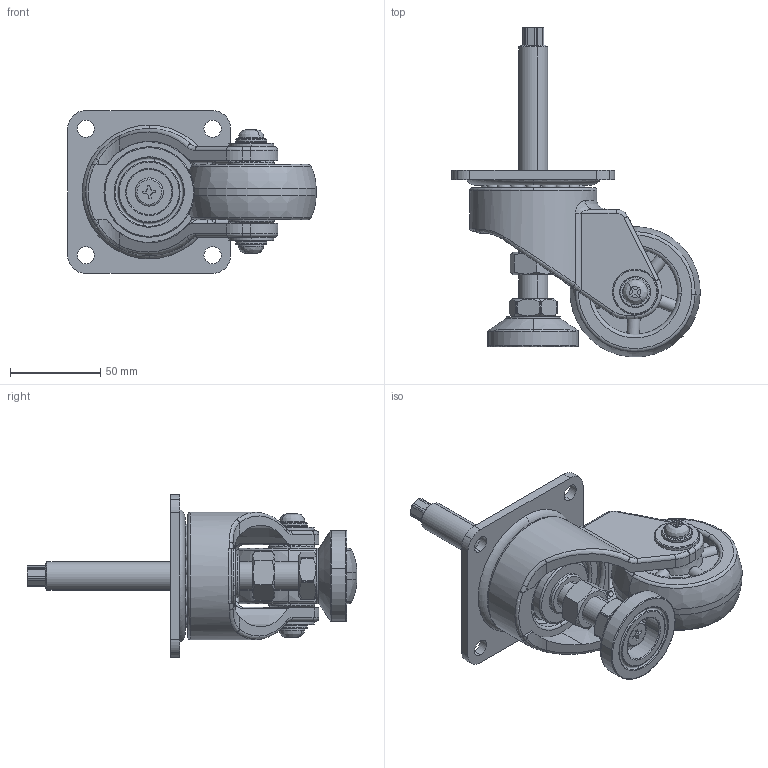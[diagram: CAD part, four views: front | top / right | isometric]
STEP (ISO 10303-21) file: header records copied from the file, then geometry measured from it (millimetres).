
FILE_DESCRIPTION(/* description */ (''),/* implementation_level */ '2;1');
FILE_NAME(/* name */ 'C02-1-700F-1.stp',/* time_stamp */ '2024-08-05T21:44:24+08:00',/* author */ (''),/* organization */ (''),/* preprocessor_version */ 'ST-DEVELOPER v16.7',/* originating_system */ 'SIEMENS PLM Software NX 12.0',/* authorisation */ '');
FILE_SCHEMA (('AP203_CONFIGURATION_CONTROLLED_3D_DESIGN_OF_MECHANICAL_PARTS_AND_ASSEMBLIES_MIM_LF { 1 0 10303 403 2 1 2}'));
Length unit declared in the file: millimetre
Products named in the file (1): ASUS1E14541Fqs3d
Bounding box: 137.29 x 182.26 x 90 mm (x, y, z)
Volume: 341826.2 mm3; surface area: 104078.1 mm2
Topology: 41 solids, 44 shells, 851 faces, 2201 edges, 1398 vertices
Faces by surface type: plane 337, torus 200, cylinder 154, sphere 68, cone 60, bspline 32
Full cylindrical faces by diameter (mm): 70.35 x1
Entity records: 29236 total; most frequent: CARTESIAN_POINT 9763, ORIENTED_EDGE 4034, DIRECTION 3886, EDGE_CURVE 2023, AXIS2_PLACEMENT_3D 1612, VERTEX_POINT 1295, EDGE_LOOP 908, ADVANCED_FACE 851
